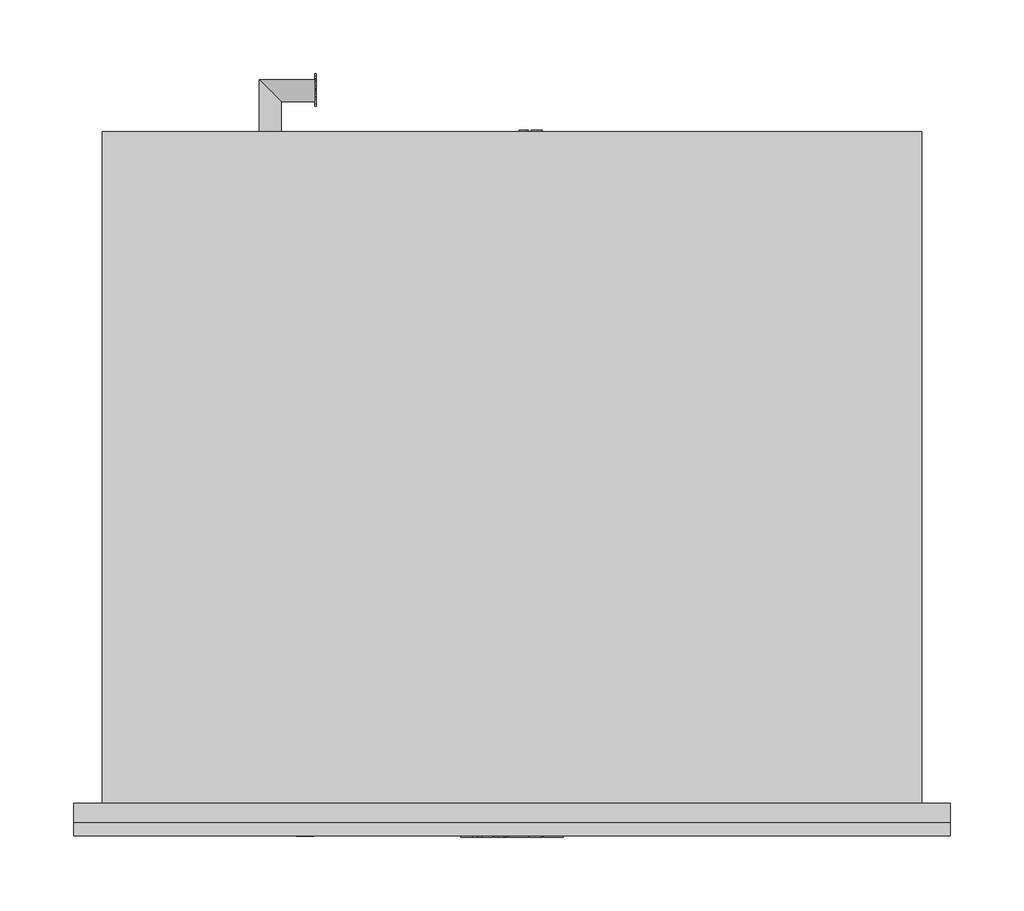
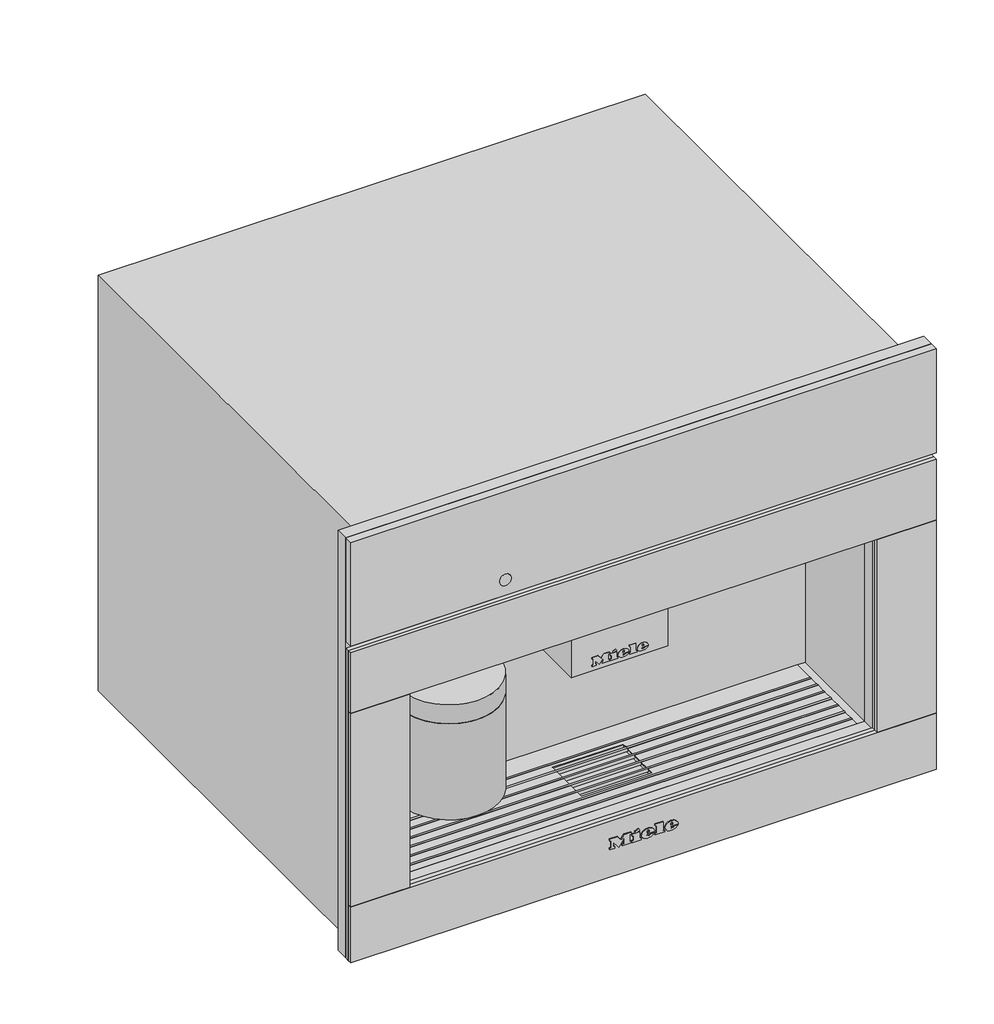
# Not in any storey: 1 proxy.
"""IFC4 building model written with IfcOpenShell, lengths in millimetres."""

from ifc_helpers import new_model, si_unit, origin, place, context, project, spatial, transform, mapped, element, save
from components import specialty_equipment_d90eeb42

model = new_model("IFC4")

# Units and contexts
model_context = context("Model", 3, world=origin())
ifc_project = project(units=[si_unit("LENGTHUNIT", "METRE", prefix="MILLI")], contexts=[model_context])

# Site, building
site = spatial("IfcSite", under=ifc_project)
building = spatial("IfcBuilding", under=site)

# Proxy
placement = place(None, origin())
specialty_equipment_shape = specialty_equipment_d90eeb42(model_context)
element("IfcBuildingElementProxy", 1, Name="12384600_D_CVA7845_OBSWMATT : 29784521_D_12384600_CVA7845_OBSWMATT", ObjectType="12384600_D_CVA7845_OBSWMATT : 29784521_D_12384600_CVA7845_OBSWMATT", at=placement, inside=building, context=model_context, shape_type="MappedRepresentation", body=[
    mapped(specialty_equipment_shape, transform((0.0, 0.0, 0.0), x_axis=(1.0, 0.0, 0.0), y_axis=(0.0, 1.0, 0.0), z_axis=(0.0, 0.0, 1.0))),
])

save(model, "model.ifc")
